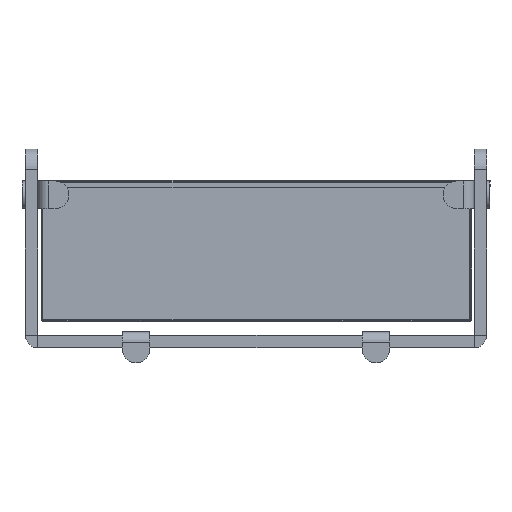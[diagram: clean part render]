
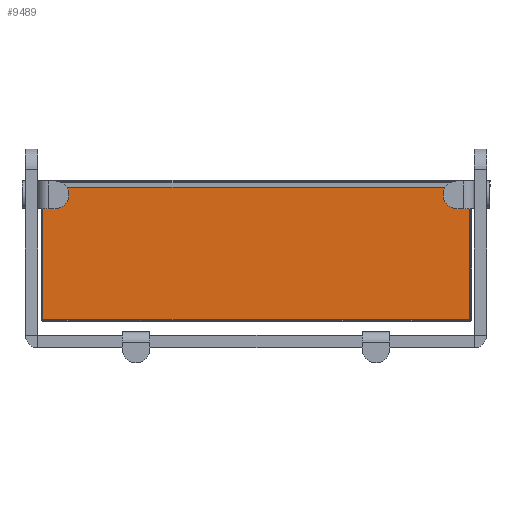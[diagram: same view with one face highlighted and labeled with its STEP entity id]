
A CAD part, front view. The second image highlights one B-rep face of the part: STEP entity #9489.
In plain terms, the highlighted planar face has unit normal (0, -1, 0) as drawn and (0, 0, 1) by its records, which use the part's own axes.
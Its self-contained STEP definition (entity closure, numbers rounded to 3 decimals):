
#62 = AXIS2_PLACEMENT_3D ( 'NONE', #6145, #3205, #8224 ) ;
#1163 = EDGE_CURVE ( 'NONE', #5816, #1196, #9878, .T. ) ;
#1196 = VERTEX_POINT ( 'NONE', #2012 ) ;
#1881 = VERTEX_POINT ( 'NONE', #6881 ) ;
#2012 = CARTESIAN_POINT ( 'NONE',  ( 619.8, 0., 0. ) ) ;
#2598 = LINE ( 'NONE', #3822, #2882 ) ;
#2882 = VECTOR ( 'NONE', #4809, 1000. ) ;
#3205 = DIRECTION ( 'NONE',  ( 0., 0., -1. ) ) ;
#3539 = LINE ( 'NONE', #11338, #4635 ) ;
#3715 = CARTESIAN_POINT ( 'NONE',  ( 0., 200., 0. ) ) ;
#3784 = DIRECTION ( 'NONE',  ( -1., 0., 0. ) ) ;
#3822 = CARTESIAN_POINT ( 'NONE',  ( 619.8, 200., 0. ) ) ;
#4635 = VECTOR ( 'NONE', #4648, 1000. ) ;
#4648 = DIRECTION ( 'NONE',  ( 0., 1., 0. ) ) ;
#4809 = DIRECTION ( 'NONE',  ( 0., -1., 0. ) ) ;
#5059 = CARTESIAN_POINT ( 'NONE',  ( 619.8, 200., 0. ) ) ;
#5298 = FACE_OUTER_BOUND ( 'NONE', #8423, .T. ) ;
#5816 = VERTEX_POINT ( 'NONE', #10220 ) ;
#6145 = CARTESIAN_POINT ( 'NONE',  ( 0., 0., 0. ) ) ;
#6152 = VECTOR ( 'NONE', #6960, 1000. ) ;
#6739 = ORIENTED_EDGE ( 'NONE', *, *, #9137, .F. ) ;
#6825 = ORIENTED_EDGE ( 'NONE', *, *, #12207, .F. ) ;
#6881 = CARTESIAN_POINT ( 'NONE',  ( 1.7, 200., 0. ) ) ;
#6960 = DIRECTION ( 'NONE',  ( 1., 0., 0. ) ) ;
#7586 = ORIENTED_EDGE ( 'NONE', *, *, #1163, .T. ) ;
#7631 = VERTEX_POINT ( 'NONE', #5059 ) ;
#7818 = LINE ( 'NONE', #3715, #12052 ) ;
#8224 = DIRECTION ( 'NONE',  ( -1., 0., 0. ) ) ;
#8423 = EDGE_LOOP ( 'NONE', ( #6739, #7586, #6825, #8777 ) ) ;
#8431 = EDGE_CURVE ( 'NONE', #7631, #1881, #7818, .T. ) ;
#8777 = ORIENTED_EDGE ( 'NONE', *, *, #8431, .T. ) ;
#9137 = EDGE_CURVE ( 'NONE', #5816, #1881, #3539, .T. ) ;
#9489 = ADVANCED_FACE ( 'NONE', ( #5298 ), #9977, .F. ) ;
#9878 = LINE ( 'NONE', #12803, #6152 ) ;
#9977 = PLANE ( 'NONE',  #62 ) ;
#10220 = CARTESIAN_POINT ( 'NONE',  ( 1.7, 0., 0. ) ) ;
#11338 = CARTESIAN_POINT ( 'NONE',  ( 1.7, 0., 0. ) ) ;
#12052 = VECTOR ( 'NONE', #3784, 1000. ) ;
#12207 = EDGE_CURVE ( 'NONE', #7631, #1196, #2598, .T. ) ;
#12803 = CARTESIAN_POINT ( 'NONE',  ( 0., 0., 0. ) ) ;
